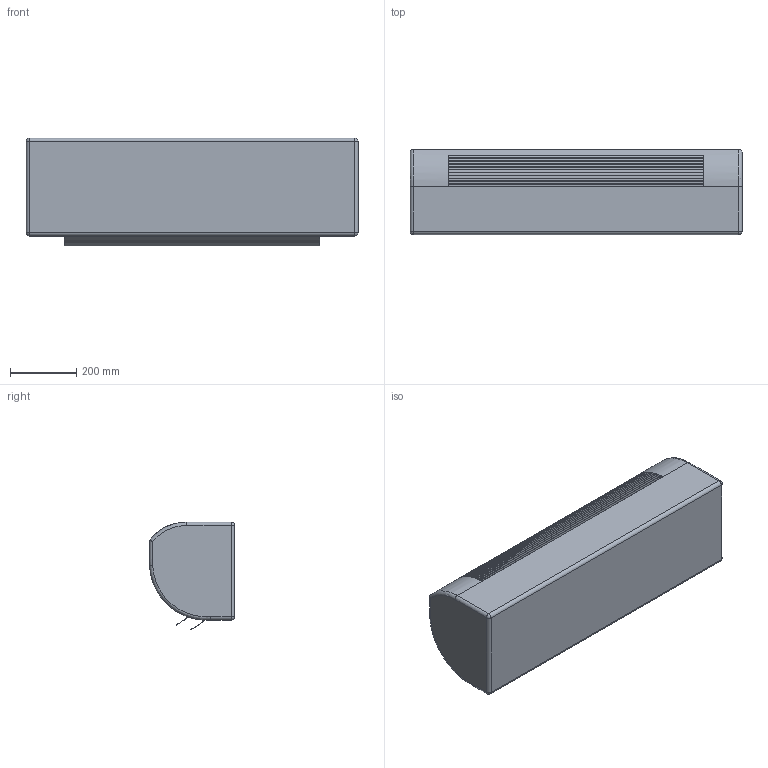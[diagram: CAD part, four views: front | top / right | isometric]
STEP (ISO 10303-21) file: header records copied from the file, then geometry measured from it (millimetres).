
FILE_DESCRIPTION(('FreeCAD Model'),'2;1');
FILE_NAME('Open CASCADE Shape Model','2026-04-13T11:35:37',(''),(''), 'Open CASCADE STEP processor 7.8','FreeCAD','Unknown');
FILE_SCHEMA(('AUTOMOTIVE_DESIGN { 1 0 10303 214 1 1 1 1 }'));
Length unit declared in the file: millimetre
Products named in the file (1): Evap Pared 18000-24000
Bounding box: 1000 x 257 x 324.65 mm (x, y, z)
Volume: 62039389.2 mm3; surface area: 1588837.8 mm2
Topology: 1 solids, 1 shells, 79 faces, 243 edges, 150 vertices
Faces by surface type: plane 52, cylinder 19, sphere 4, torus 4
Entity records: 2803 total; most frequent: CARTESIAN_POINT 537, ORIENTED_EDGE 478, DIRECTION 477, EDGE_CURVE 239, AXIS2_PLACEMENT_3D 160, LINE 157, VECTOR 157, VERTEX_POINT 150
